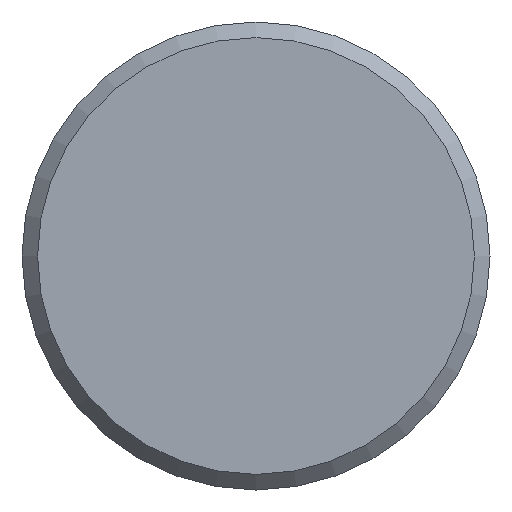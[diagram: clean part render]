
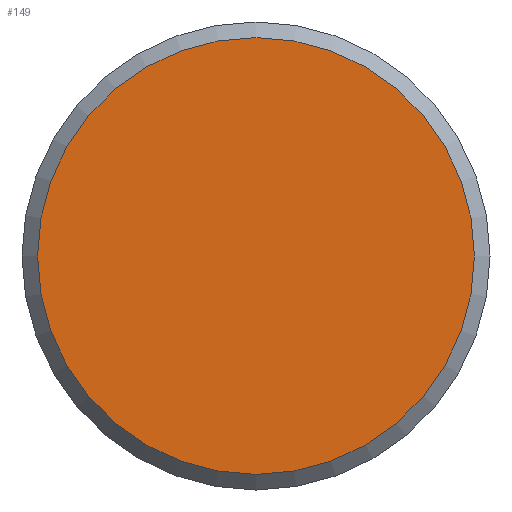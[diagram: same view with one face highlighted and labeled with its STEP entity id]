
A CAD part, left-side view. The second image highlights one B-rep face of the part: STEP entity #149.
In plain terms, the highlighted planar face has unit normal (-1, 0, 0).
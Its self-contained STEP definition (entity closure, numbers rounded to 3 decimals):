
#18=PLANE('',#190);
#28=FACE_OUTER_BOUND('',#38,.T.);
#38=EDGE_LOOP('',(#123));
#61=CIRCLE('',#189,21.);
#74=VERTEX_POINT('',#278);
#91=EDGE_CURVE('',#74,#74,#61,.T.);
#123=ORIENTED_EDGE('',*,*,#91,.F.);
#149=ADVANCED_FACE('',(#28),#18,.T.);
#189=AXIS2_PLACEMENT_3D('',#280,#236,#237);
#190=AXIS2_PLACEMENT_3D('',#281,#238,#239);
#236=DIRECTION('center_axis',(1.,0.,0.));
#237=DIRECTION('ref_axis',(0.,-1.,0.));
#238=DIRECTION('center_axis',(-1.,0.,0.));
#239=DIRECTION('ref_axis',(0.,0.,1.));
#278=CARTESIAN_POINT('',(0.,21.,0.));
#280=CARTESIAN_POINT('Origin',(0.,0.,0.));
#281=CARTESIAN_POINT('Origin',(0.,22.5,0.));
